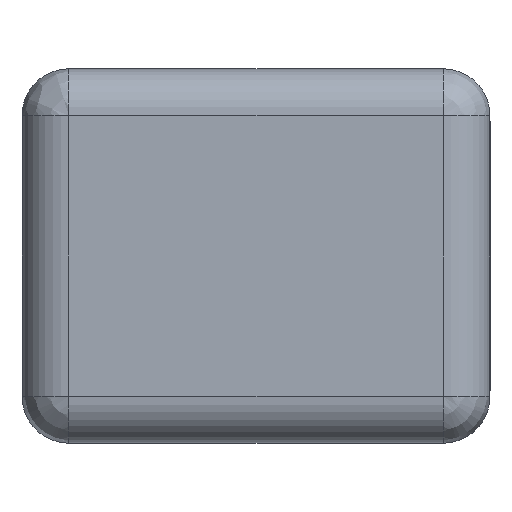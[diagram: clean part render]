
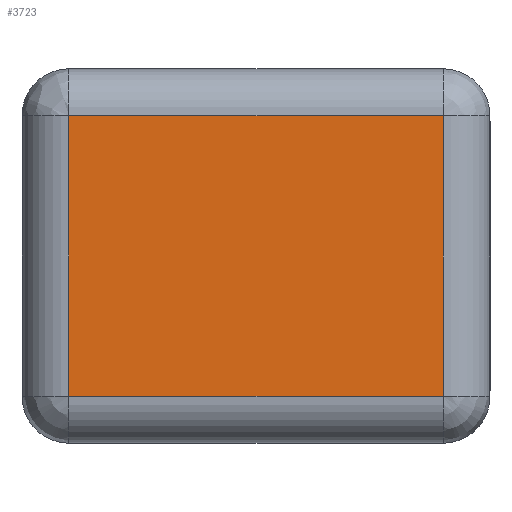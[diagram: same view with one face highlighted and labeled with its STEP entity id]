
A CAD part, front view. The second image highlights one B-rep face of the part: STEP entity #3723.
In plain terms, the highlighted planar face has unit normal (0, -1, 0).
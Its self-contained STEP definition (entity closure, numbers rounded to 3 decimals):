
#350=CARTESIAN_POINT('',(8.691,-66.5,-0.164));
#351=VERTEX_POINT('',#350);
#359=CARTESIAN_POINT('',(24.691,-66.5,-0.164));
#360=VERTEX_POINT('',#359);
#361=CARTESIAN_POINT('',(24.691,-66.5,-0.164));
#362=DIRECTION('',(-1.0,0.0,0.0));
#363=VECTOR('',#362,16.);
#364=LINE('',#361,#363);
#365=EDGE_CURVE('',#360,#351,#364,.T.);
#473=CARTESIAN_POINT('',(24.691,-66.5,-12.164));
#474=VERTEX_POINT('',#473);
#475=CARTESIAN_POINT('',(24.691,-66.5,-12.164));
#476=DIRECTION('',(0.0,0.0,1.0));
#477=VECTOR('',#476,12.);
#478=LINE('',#475,#477);
#479=EDGE_CURVE('',#474,#360,#478,.T.);
#588=CARTESIAN_POINT('',(8.691,-66.5,-12.164));
#589=VERTEX_POINT('',#588);
#590=CARTESIAN_POINT('',(8.691,-66.5,-12.164));
#591=DIRECTION('',(1.0,0.0,0.0));
#592=VECTOR('',#591,16.0);
#593=LINE('',#590,#592);
#594=EDGE_CURVE('',#589,#474,#593,.T.);
#703=CARTESIAN_POINT('',(8.691,-66.5,-0.164));
#704=DIRECTION('',(0.0,0.0,-1.0));
#705=VECTOR('',#704,12.);
#706=LINE('',#703,#705);
#707=EDGE_CURVE('',#351,#589,#706,.T.);
#3712=CARTESIAN_POINT('',(4.691,-66.5,3.436));
#3713=DIRECTION('',(0.0,-1.0,0.0));
#3714=DIRECTION('',(0.0,0.0,-1.0));
#3715=AXIS2_PLACEMENT_3D('',#3712,#3713,#3714);
#3716=PLANE('',#3715);
#3717=ORIENTED_EDGE('',*,*,#365,.T.);
#3718=ORIENTED_EDGE('',*,*,#707,.T.);
#3719=ORIENTED_EDGE('',*,*,#594,.T.);
#3720=ORIENTED_EDGE('',*,*,#479,.T.);
#3721=EDGE_LOOP('',(#3717,#3718,#3719,#3720));
#3722=FACE_OUTER_BOUND('',#3721,.T.);
#3723=ADVANCED_FACE('',(#3722),#3716,.T.);
